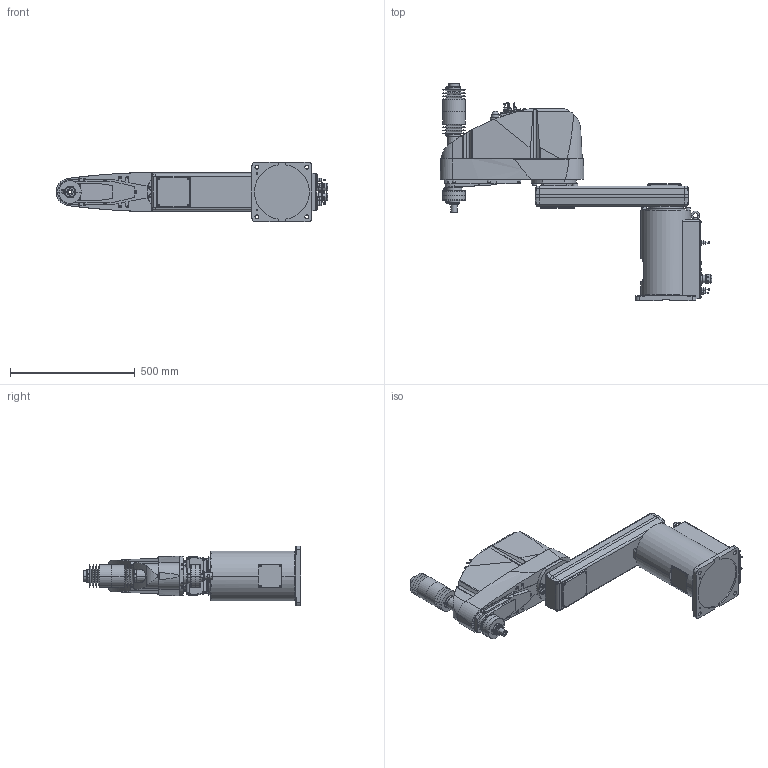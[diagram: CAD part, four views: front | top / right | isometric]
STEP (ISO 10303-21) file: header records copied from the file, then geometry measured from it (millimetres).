
FILE_DESCRIPTION( ( '' ), '1' );
FILE_NAME( '//expscmdclustefs.cadenas.external/client_exchange/iodir/jobs/output/wkb51503609_no0/STEP/G20_851D_2_03.stp', '2012-11-22T12:55:36', ( '' ), ( '' ), ' ', ' ', ' ' );
FILE_SCHEMA( ( 'CONFIG_CONTROL_DESIGN' ) );
Length unit declared in the file: millimetre
Products named in the file (8): 1; 2; 3; 4; 5; 6; 7; 8
Bounding box: 1089.5 x 874 x 240 mm (x, y, z)
Volume: 41703892.8 mm3; surface area: 1615042.4 mm2
Topology: 8 solids, 9 shells, 2083 faces, 5018 edges, 3220 vertices
Faces by surface type: plane 1079, cylinder 682, cone 282, torus 39, sphere 1
Entity records: 62927 total; most frequent: CARTESIAN_POINT 12698, DIRECTION 10774, ORIENTED_EDGE 10012, EDGE_CURVE 5006, AXIS2_PLACEMENT_3D 3839, VERTEX_POINT 3220, LINE 3096, VECTOR 3096
